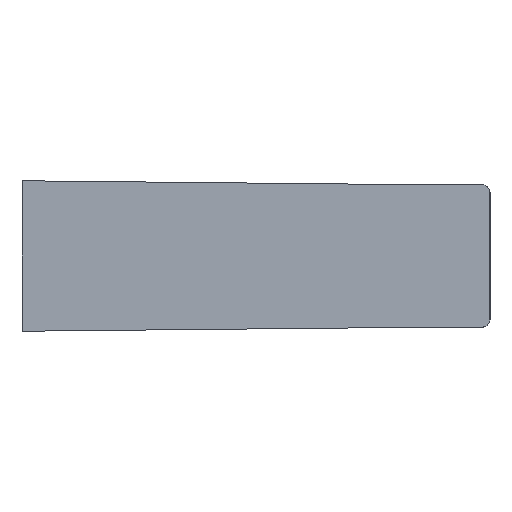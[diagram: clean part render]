
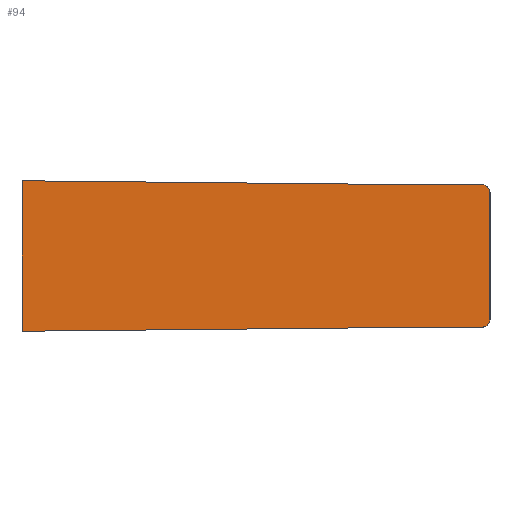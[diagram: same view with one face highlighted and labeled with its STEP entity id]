
A CAD part, left-side view. The second image highlights one B-rep face of the part: STEP entity #94.
In plain terms, the highlighted planar face has unit normal (-1, -0.018, 0).
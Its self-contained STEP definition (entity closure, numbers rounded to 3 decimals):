
#94 = ADVANCED_FACE( '', ( #190 ), #191, .F. );
#190 = FACE_OUTER_BOUND( '', #277, .T. );
#191 = PLANE( '', #278 );
#277 = EDGE_LOOP( '', ( #457, #458, #459, #460, #461, #462, #463, #464 ) );
#278 = AXIS2_PLACEMENT_3D( '', #465, #466, #467 );
#457 = ORIENTED_EDGE( '', *, *, #535, .F. );
#458 = ORIENTED_EDGE( '', *, *, #529, .T. );
#459 = ORIENTED_EDGE( '', *, *, #533, .T. );
#460 = ORIENTED_EDGE( '', *, *, #478, .T. );
#461 = ORIENTED_EDGE( '', *, *, #469, .F. );
#462 = ORIENTED_EDGE( '', *, *, #526, .T. );
#463 = ORIENTED_EDGE( '', *, *, #506, .T. );
#464 = ORIENTED_EDGE( '', *, *, #514, .T. );
#465 = CARTESIAN_POINT( '', ( -17., 0., 30. ) );
#466 = DIRECTION( '', ( 1., 0.017, 0. ) );
#467 = DIRECTION( '', ( -0.017, 1., 0. ) );
#469 = EDGE_CURVE( '', #539, #540, #541, .T. );
#478 = EDGE_CURVE( '', #552, #540, #555, .F. );
#506 = EDGE_CURVE( '', #593, #599, #601, .T. );
#514 = EDGE_CURVE( '', #599, #610, #612, .T. );
#526 = EDGE_CURVE( '', #539, #593, #626, .F. );
#529 = EDGE_CURVE( '', #630, #628, #631, .T. );
#533 = EDGE_CURVE( '', #628, #552, #635, .T. );
#535 = EDGE_CURVE( '', #630, #610, #637, .T. );
#539 = VERTEX_POINT( '', #641 );
#540 = VERTEX_POINT( '', #642 );
#541 = LINE( '', #643, #644 );
#552 = VERTEX_POINT( '', #658 );
#555 = ELLIPSE( '', #662, 0.5, 0.5 );
#593 = VERTEX_POINT( '', #778 );
#599 = VERTEX_POINT( '', #788 );
#601 = LINE( '', #791, #792 );
#610 = VERTEX_POINT( '', #803 );
#612 = LINE( '', #806, #807 );
#626 = ELLIPSE( '', #826, 0.5, 0.5 );
#628 = VERTEX_POINT( '', #828 );
#630 = VERTEX_POINT( '', #831 );
#631 = LINE( '', #832, #833 );
#635 = LINE( '', #839, #840 );
#637 = LINE( '', #842, #843 );
#641 = CARTESIAN_POINT( '', ( -16.511, -27.996, 3.825 ) );
#642 = CARTESIAN_POINT( '', ( -16.511, -27.996, -3.825 ) );
#643 = CARTESIAN_POINT( '', ( -16.511, -27.996, 30. ) );
#644 = VECTOR( '', #846, 1000. );
#658 = CARTESIAN_POINT( '', ( -16.52, -27.5, -4.26 ) );
#662 = AXIS2_PLACEMENT_3D( '', #857, #858, #859 );
#778 = CARTESIAN_POINT( '', ( -16.52, -27.5, 4.26 ) );
#788 = CARTESIAN_POINT( '', ( -16.577, -24.26, 4.26 ) );
#791 = CARTESIAN_POINT( '', ( -17., 0., 4.26 ) );
#792 = VECTOR( '', #901, 1000. );
#803 = CARTESIAN_POINT( '', ( -17., 0., 4.5 ) );
#806 = CARTESIAN_POINT( '', ( -17.004, 0.252, 4.502 ) );
#807 = VECTOR( '', #908, 1000. );
#826 = AXIS2_PLACEMENT_3D( '', #917, #918, #919 );
#828 = CARTESIAN_POINT( '', ( -16.577, -24.26, -4.26 ) );
#831 = CARTESIAN_POINT( '', ( -17., 0., -4.5 ) );
#832 = CARTESIAN_POINT( '', ( -16.994, -0.341, -4.497 ) );
#833 = VECTOR( '', #921, 1000. );
#839 = CARTESIAN_POINT( '', ( -17., 0., -4.26 ) );
#840 = VECTOR( '', #924, 1000. );
#842 = CARTESIAN_POINT( '', ( -17., 0., -4.5 ) );
#843 = VECTOR( '', #925, 1000. );
#846 = DIRECTION( '', ( 0., 0., -1. ) );
#857 = CARTESIAN_POINT( '', ( -16.52, -27.5, -3.76 ) );
#858 = DIRECTION( '', ( 1., 0.017, 0. ) );
#859 = DIRECTION( '', ( -0.017, 1., 0. ) );
#901 = DIRECTION( '', ( -0.017, 1., 0. ) );
#908 = DIRECTION( '', ( -0.017, 1., 0.01 ) );
#917 = CARTESIAN_POINT( '', ( -16.52, -27.5, 3.76 ) );
#918 = DIRECTION( '', ( 1., 0.017, 0. ) );
#919 = DIRECTION( '', ( -0.017, 1., 0. ) );
#921 = DIRECTION( '', ( 0.017, -1., 0.01 ) );
#924 = DIRECTION( '', ( 0.017, -1., 0. ) );
#925 = DIRECTION( '', ( 0., 0., 1. ) );
